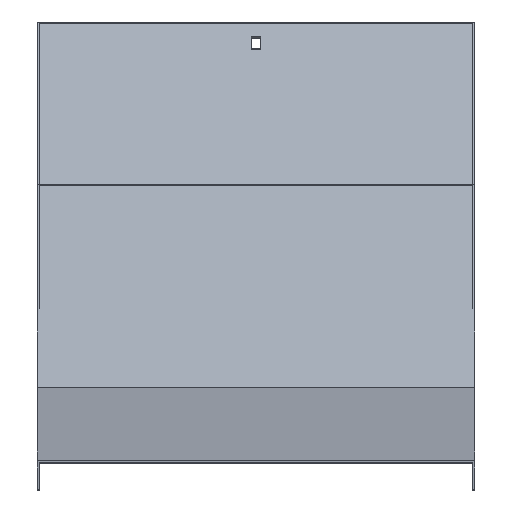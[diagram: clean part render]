
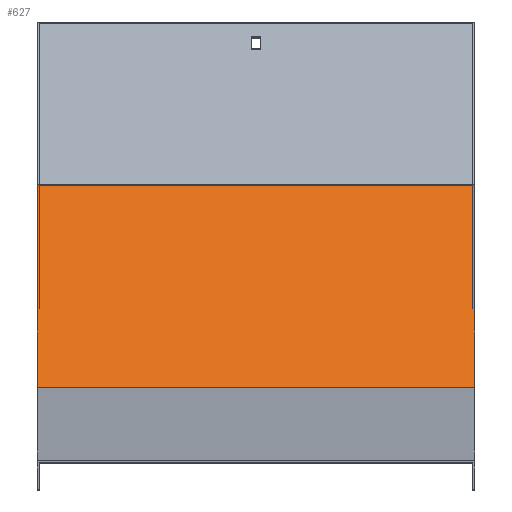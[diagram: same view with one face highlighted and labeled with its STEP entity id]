
A CAD part, top view. The second image highlights one B-rep face of the part: STEP entity #627.
In plain terms, the highlighted planar face has unit normal (0, 0.707, 0.707).
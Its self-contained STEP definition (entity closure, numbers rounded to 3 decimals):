
#19 = CARTESIAN_POINT ( 'NONE',  ( 151.5, 192.219, -462.933 ) ) ;
#23 = VERTEX_POINT ( 'NONE', #19 ) ;
#65 = EDGE_CURVE ( 'NONE', #580, #131, #473, .T. ) ;
#67 = CARTESIAN_POINT ( 'NONE',  ( 151.5, 51.505, -322.219 ) ) ;
#78 = AXIS2_PLACEMENT_3D ( 'NONE', #67, #685, #826 ) ;
#99 = ORIENTED_EDGE ( 'NONE', *, *, #65, .F. ) ;
#131 = VERTEX_POINT ( 'NONE', #671 ) ;
#146 = ORIENTED_EDGE ( 'NONE', *, *, #787, .F. ) ;
#153 = DIRECTION ( 'NONE',  ( 0., 0.707, -0.707 ) ) ;
#252 = CARTESIAN_POINT ( 'NONE',  ( 151.5, 51.505, -322.219 ) ) ;
#260 = CARTESIAN_POINT ( 'NONE',  ( 151.5, 51.505, -322.219 ) ) ;
#263 = CARTESIAN_POINT ( 'NONE',  ( 151.5, 192.219, -462.933 ) ) ;
#285 = EDGE_LOOP ( 'NONE', ( #99, #146, #506, #538 ) ) ;
#336 = VECTOR ( 'NONE', #153, 1000. ) ;
#394 = CARTESIAN_POINT ( 'NONE',  ( -151.5, 51.505, -322.219 ) ) ;
#430 = DIRECTION ( 'NONE',  ( -1., 0., 0. ) ) ;
#456 = CARTESIAN_POINT ( 'NONE',  ( -151.5, 51.505, -322.219 ) ) ;
#473 = LINE ( 'NONE', #456, #575 ) ;
#477 = DIRECTION ( 'NONE',  ( -1., 0., 0. ) ) ;
#506 = ORIENTED_EDGE ( 'NONE', *, *, #744, .T. ) ;
#538 = ORIENTED_EDGE ( 'NONE', *, *, #930, .T. ) ;
#548 = LINE ( 'NONE', #854, #336 ) ;
#575 = VECTOR ( 'NONE', #791, 1000. ) ;
#580 = VERTEX_POINT ( 'NONE', #394 ) ;
#607 = LINE ( 'NONE', #263, #740 ) ;
#627 = ADVANCED_FACE ( 'NONE', ( #751 ), #972, .T. ) ;
#671 = CARTESIAN_POINT ( 'NONE',  ( -151.5, 192.219, -462.933 ) ) ;
#680 = VECTOR ( 'NONE', #477, 1000. ) ;
#685 = DIRECTION ( 'NONE',  ( 0., 0.707, 0.707 ) ) ;
#740 = VECTOR ( 'NONE', #430, 1000. ) ;
#744 = EDGE_CURVE ( 'NONE', #779, #23, #548, .T. ) ;
#751 = FACE_OUTER_BOUND ( 'NONE', #285, .T. ) ;
#779 = VERTEX_POINT ( 'NONE', #260 ) ;
#787 = EDGE_CURVE ( 'NONE', #779, #580, #886, .T. ) ;
#791 = DIRECTION ( 'NONE',  ( 0., 0.707, -0.707 ) ) ;
#826 = DIRECTION ( 'NONE',  ( 0., -0.707, 0.707 ) ) ;
#854 = CARTESIAN_POINT ( 'NONE',  ( 151.5, 51.505, -322.219 ) ) ;
#886 = LINE ( 'NONE', #252, #680 ) ;
#930 = EDGE_CURVE ( 'NONE', #23, #131, #607, .T. ) ;
#972 = PLANE ( 'NONE',  #78 ) ;
